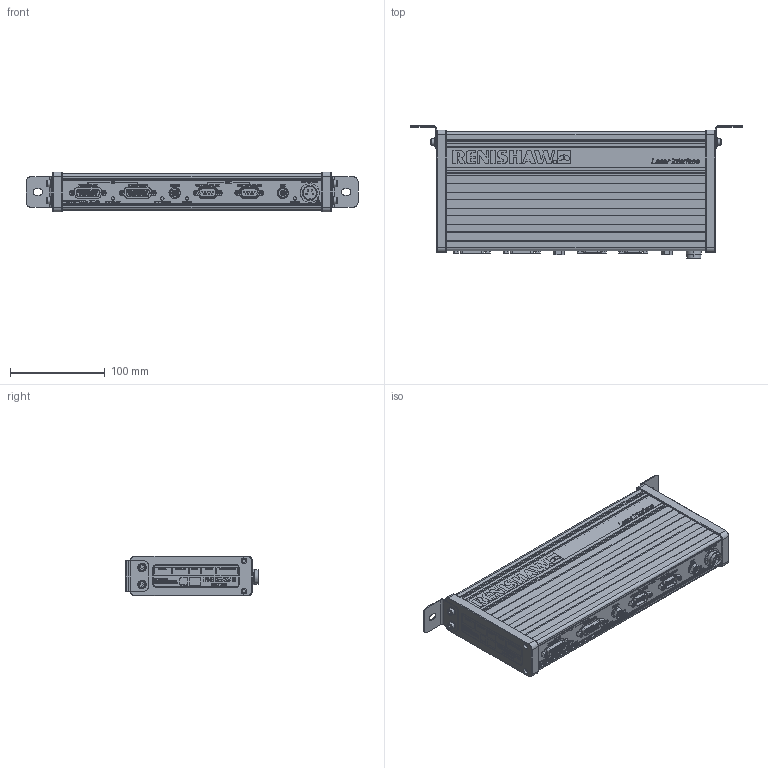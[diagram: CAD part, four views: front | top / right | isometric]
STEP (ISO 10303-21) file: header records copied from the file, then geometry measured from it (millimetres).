
FILE_DESCRIPTION(/* description */ (''),/* implementation_level */ '2;1');
FILE_NAME(/* name */ 'LA_9926_0200.stp',/* time_stamp */ '2014-12-11T09:19:37+00:00',/* author */ (''),/* organization */ (''),/* preprocessor_version */ 'ST-DEVELOPER v11',/* originating_system */ 'SIEMENS PLM Software NX 7.5',/* authorisation */ '');
FILE_SCHEMA (('CONFIG_CONTROL_DESIGN'));
Products named in the file (1): lr139CC5djax
Bounding box: 350 x 139.5 x 42 mm (x, y, z)
Volume: 1363734.8 mm3; surface area: 144657.7 mm2
Topology: 9 solids, 20 shells, 3586 faces, 10940 edges, 8114 vertices
Faces by surface type: plane 2339, extrusion 528, cylinder 450, cone 205, sphere 42, torus 22
Full cylindrical faces by diameter (mm): 1 x9, 2.35 x8, 2.845 x8, 3.4 x2, 3.8 x1, 5.5 x2, 5.8 x2, 6 x4, 7 x4, 8.85 x4, 8.9 x4, 12 x2
Entity records: 131710 total; most frequent: CARTESIAN_POINT 40059, ORIENTED_EDGE 21482, DIRECTION 14051, EDGE_CURVE 10741, VERTEX_POINT 8050, VECTOR 5653, LINE 5125, B_SPLINE_CURVE_WITH_KNOTS 5004
